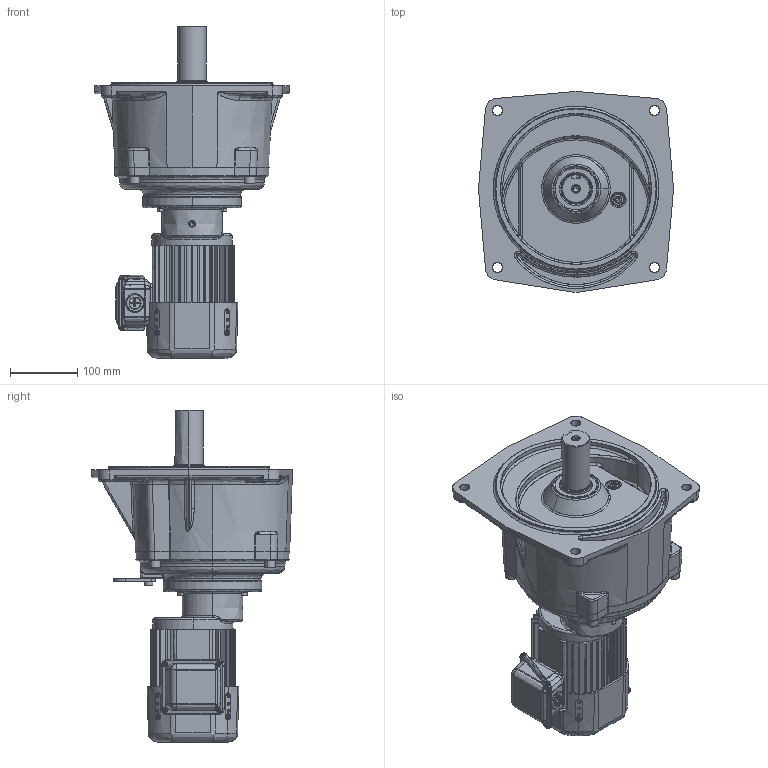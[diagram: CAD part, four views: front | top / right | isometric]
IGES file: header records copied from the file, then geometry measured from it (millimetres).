
Start section: SolidWorks IGES file using analytic representation for surfaces
Global section: file name: \\100.100.100.8\1_共有作業フォルダ\1-5_３Ｄデータ\solidworks\personal-folder\H.Nagayama\SGP1外形\P1(3D)\igs\TMFB2-02-(600~1200).IGS; native system: SolidWorks 2018; preprocessor: SolidWorks 2018; author: sigma-giken; date: 200611.104913; units: millimetre
Bounding box: 290 x 299 x 493.6 mm (x, y, z)
Surface area: 795070.4 mm2 (no closed solid volume)
Topology: 0 solids, 0 shells, 2064 faces, 26489 edges, 26410 vertices
Faces by surface type: bspline 1103, revolution 961
